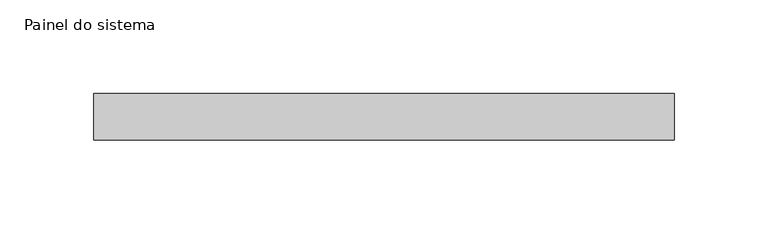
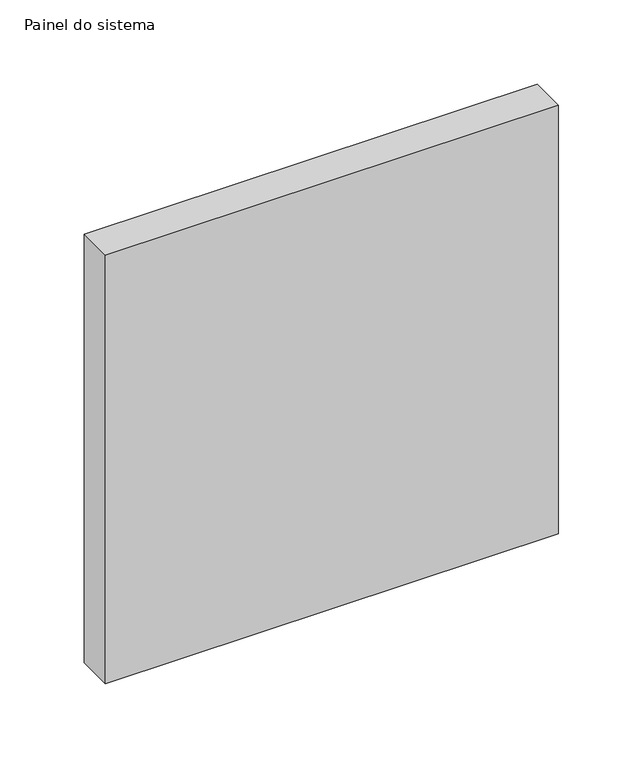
"""IFC4 building model written with IfcOpenShell, lengths in millimetres: plate geometry, Painel do sistema : Envidraçado."""

from ifc_helpers import new_model, si_unit, origin, origin_with_axes, place, context, project, spatial, polyline, outline, extrude, source, transform, mapped, element, save


def painel_do_sistema_73d1a4aa(model_context):
    return source(origin(), model_context, "Body", "SweptSolid", [
        extrude(outline(polyline([(155.0000001, 24.5), (-155.0000001, 24.5), (-155.0000001, 49.5), (155.0000001, 49.5), (155.0000001, 24.5)])), origin_with_axes(), (0.0, 0.0, 1.0), 310.0),
    ])


if __name__ == "__main__":
    model = new_model("IFC4")
    model_context = context("Model", 3, world=origin())
    ifc_project = project(units=[si_unit("LENGTHUNIT", "METRE", prefix="MILLI")], contexts=[model_context])
    site = spatial("IfcSite", under=ifc_project)
    building = spatial("IfcBuilding", under=site)
    placement = place(None, origin())
    painel_do_sistema_shape = painel_do_sistema_73d1a4aa(model_context)
    element("IfcPlate", 1, ObjectType="Painel do sistema : Envidraçado", at=placement, inside=building, context=model_context, shape_type="MappedRepresentation", body=[
        mapped(painel_do_sistema_shape, transform((0.0, 0.0, 0.0), x_axis=(1.0, 0.0, 0.0), y_axis=(0.0, 1.0, 0.0), z_axis=(0.0, 0.0, 1.0))),
    ])
    save(model, "model.ifc")
